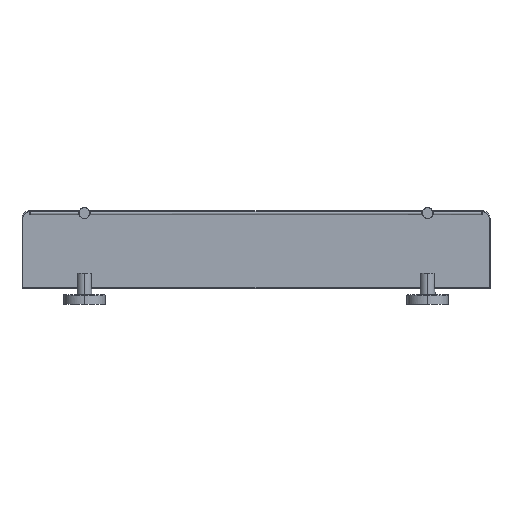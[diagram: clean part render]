
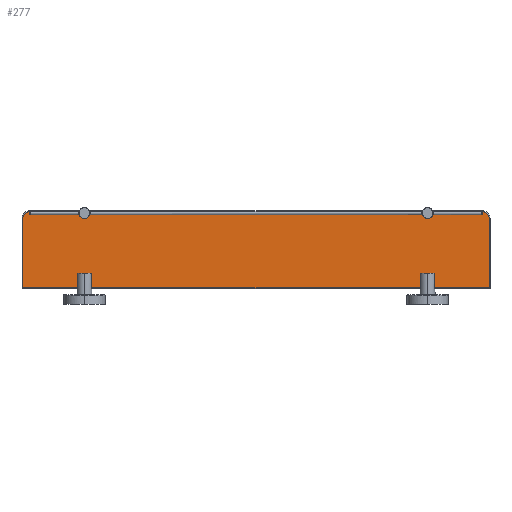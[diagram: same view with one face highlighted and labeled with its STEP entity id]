
A CAD part, top view. The second image highlights one B-rep face of the part: STEP entity #277.
In plain terms, the highlighted planar face has unit normal (0, 0, 1).
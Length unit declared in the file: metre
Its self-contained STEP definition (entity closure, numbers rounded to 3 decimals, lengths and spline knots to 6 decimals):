
#277=ADVANCED_FACE('',(#283),#278,.T.);
#278=PLANE('',#279);
#279=AXIS2_PLACEMENT_3D('',#280,#281,#282);
#280=CARTESIAN_POINT('',(-0.0,0.02,0.00375));
#281=DIRECTION('',(0.,0.0,1.0));
#282=DIRECTION('',(0.0,-1.0,0.0));
#283=FACE_OUTER_BOUND('',#284,.T.);
#284=EDGE_LOOP('',(#285,#295,#303,#311,#320,#328));
#285=ORIENTED_EDGE('',*,*,#286,.T.);
#286=EDGE_CURVE('',#287,#289,#291,.T.);
#287=VERTEX_POINT('',#288);
#288=CARTESIAN_POINT('',(-0.298917,0.11,0.00375));
#289=VERTEX_POINT('',#290);
#290=CARTESIAN_POINT('',(-0.298917,0.021083,0.00375));
#291=LINE('',#292,#293);
#292=CARTESIAN_POINT('',(-0.298917,0.02,0.00375));
#293=VECTOR('',#294,1.0);
#294=DIRECTION('',(0.0,-1.0,0.0));
#295=ORIENTED_EDGE('',*,*,#296,.T.);
#296=EDGE_CURVE('',#289,#297,#299,.T.);
#297=VERTEX_POINT('',#298);
#298=CARTESIAN_POINT('',(0.298917,0.021083,0.00375));
#299=LINE('',#300,#301);
#300=CARTESIAN_POINT('',(-0.0,0.021083,0.00375));
#301=VECTOR('',#302,1.0);
#302=DIRECTION('',(1.0,0.0,0.));
#303=ORIENTED_EDGE('',*,*,#304,.T.);
#304=EDGE_CURVE('',#297,#305,#307,.T.);
#305=VERTEX_POINT('',#306);
#306=CARTESIAN_POINT('',(0.298917,0.11,0.00375));
#307=LINE('',#308,#309);
#308=CARTESIAN_POINT('',(0.298917,0.02,0.00375));
#309=VECTOR('',#310,1.0);
#310=DIRECTION('',(0.0,1.0,0.0));
#311=ORIENTED_EDGE('',*,*,#312,.T.);
#312=EDGE_CURVE('',#305,#313,#315,.T.);
#313=VERTEX_POINT('',#314);
#314=CARTESIAN_POINT('',(0.29,0.118917,0.00375));
#315=CIRCLE('',#316,0.008917);
#316=AXIS2_PLACEMENT_3D('',#317,#318,#319);
#317=CARTESIAN_POINT('',(0.29,0.11,0.00375));
#318=DIRECTION('',(0.,0.0,1.0));
#319=DIRECTION('',(1.0,0.0,0.));
#320=ORIENTED_EDGE('',*,*,#321,.T.);
#321=EDGE_CURVE('',#313,#322,#324,.T.);
#322=VERTEX_POINT('',#323);
#323=CARTESIAN_POINT('',(-0.29,0.118917,0.00375));
#324=LINE('',#325,#326);
#325=CARTESIAN_POINT('',(-0.0,0.118917,0.00375));
#326=VECTOR('',#327,1.0);
#327=DIRECTION('',(-1.0,0.0,0.));
#328=ORIENTED_EDGE('',*,*,#329,.T.);
#329=EDGE_CURVE('',#322,#287,#330,.T.);
#330=CIRCLE('',#331,0.008917);
#331=AXIS2_PLACEMENT_3D('',#332,#333,#334);
#332=CARTESIAN_POINT('',(-0.29,0.11,0.00375));
#333=DIRECTION('',(0.,0.0,1.0));
#334=DIRECTION('',(1.0,0.0,0.));
